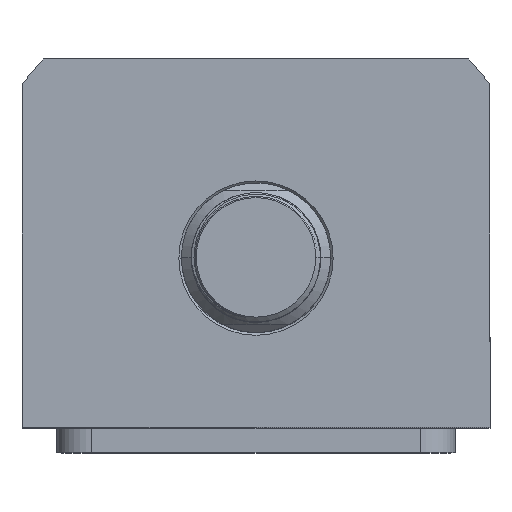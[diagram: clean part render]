
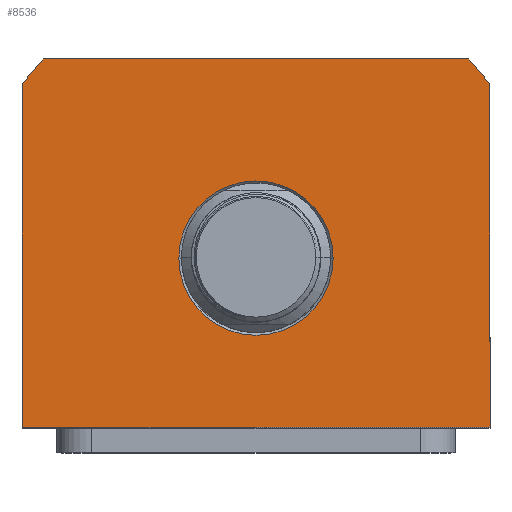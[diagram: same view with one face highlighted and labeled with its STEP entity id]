
A CAD part, top view. The second image highlights one B-rep face of the part: STEP entity #8536.
In plain terms, the highlighted planar face has unit normal (0, 0, 1).
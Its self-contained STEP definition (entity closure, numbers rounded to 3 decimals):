
#101 = ORIENTED_EDGE ( 'NONE', *, *, #7417, .T. ) ;
#322 = VERTEX_POINT ( 'NONE', #1579 ) ;
#499 = VERTEX_POINT ( 'NONE', #8096 ) ;
#573 = VERTEX_POINT ( 'NONE', #656 ) ;
#656 = CARTESIAN_POINT ( 'NONE',  ( 47., -34., 57.5 ) ) ;
#826 = VERTEX_POINT ( 'NONE', #14810 ) ;
#880 = DIRECTION ( 'NONE',  ( 0., 0., 1. ) ) ;
#1579 = CARTESIAN_POINT ( 'NONE',  ( 47., 34.832, 57.5 ) ) ;
#1951 = EDGE_CURVE ( 'NONE', #499, #8627, #17553, .T. ) ;
#2422 = DIRECTION ( 'NONE',  ( 1., 0., 0. ) ) ;
#2862 = AXIS2_PLACEMENT_3D ( 'NONE', #11971, #19496, #4285 ) ;
#3297 = AXIS2_PLACEMENT_3D ( 'NONE', #15523, #6493, #14058 ) ;
#3533 = DIRECTION ( 'NONE',  ( 0., 1., 0. ) ) ;
#3810 = EDGE_CURVE ( 'NONE', #5616, #6175, #10654, .T. ) ;
#4067 = EDGE_CURVE ( 'NONE', #6175, #5616, #11585, .T. ) ;
#4285 = DIRECTION ( 'NONE',  ( 1., 0., 0. ) ) ;
#4392 = LINE ( 'NONE', #5119, #17941 ) ;
#4484 = EDGE_CURVE ( 'NONE', #8627, #573, #5145, .T. ) ;
#4555 = LINE ( 'NONE', #7973, #12153 ) ;
#5017 = EDGE_CURVE ( 'NONE', #322, #19404, #5395, .T. ) ;
#5119 = CARTESIAN_POINT ( 'NONE',  ( -42.688, 40., 57.5 ) ) ;
#5145 = LINE ( 'NONE', #19162, #13227 ) ;
#5395 = CIRCLE ( 'NONE', #3297, 58.5 ) ;
#5616 = VERTEX_POINT ( 'NONE', #6417 ) ;
#6175 = VERTEX_POINT ( 'NONE', #13199 ) ;
#6417 = CARTESIAN_POINT ( 'NONE',  ( 15.5, 0., 57.5 ) ) ;
#6493 = DIRECTION ( 'NONE',  ( 0., 0., 1. ) ) ;
#6577 = ORIENTED_EDGE ( 'NONE', *, *, #17195, .T. ) ;
#6715 = AXIS2_PLACEMENT_3D ( 'NONE', #7487, #10694, #15073 ) ;
#6811 = CARTESIAN_POINT ( 'NONE',  ( -47., -34., 57.5 ) ) ;
#7417 = EDGE_CURVE ( 'NONE', #19404, #826, #4392, .T. ) ;
#7487 = CARTESIAN_POINT ( 'NONE',  ( 0., 0., 57.5 ) ) ;
#7766 = ORIENTED_EDGE ( 'NONE', *, *, #3810, .T. ) ;
#7811 = CIRCLE ( 'NONE', #17096, 58.5 ) ;
#7973 = CARTESIAN_POINT ( 'NONE',  ( 47., 34.832, 57.5 ) ) ;
#8096 = CARTESIAN_POINT ( 'NONE',  ( -47., 34.832, 57.5 ) ) ;
#8536 = ADVANCED_FACE ( 'NONE', ( #9343, #15996 ), #19352, .T. ) ;
#8627 = VERTEX_POINT ( 'NONE', #10390 ) ;
#9343 = FACE_BOUND ( 'NONE', #14790, .T. ) ;
#9436 = DIRECTION ( 'NONE',  ( -1., 0., 0. ) ) ;
#9466 = VECTOR ( 'NONE', #19022, 1000. ) ;
#9837 = DIRECTION ( 'NONE',  ( 0., 0., -1. ) ) ;
#9970 = CARTESIAN_POINT ( 'NONE',  ( 0., 0., 57.5 ) ) ;
#10390 = CARTESIAN_POINT ( 'NONE',  ( -47., -34., 57.5 ) ) ;
#10654 = CIRCLE ( 'NONE', #6715, 15.5 ) ;
#10694 = DIRECTION ( 'NONE',  ( 0., 0., -1. ) ) ;
#11248 = ORIENTED_EDGE ( 'NONE', *, *, #5017, .T. ) ;
#11585 = CIRCLE ( 'NONE', #15252, 15.5 ) ;
#11599 = ORIENTED_EDGE ( 'NONE', *, *, #1951, .T. ) ;
#11971 = CARTESIAN_POINT ( 'NONE',  ( 0., 0., 57.5 ) ) ;
#12047 = DIRECTION ( 'NONE',  ( 1., 0., 0. ) ) ;
#12153 = VECTOR ( 'NONE', #3533, 1000. ) ;
#12474 = ORIENTED_EDGE ( 'NONE', *, *, #4484, .T. ) ;
#13199 = CARTESIAN_POINT ( 'NONE',  ( -15.5, 0., 57.5 ) ) ;
#13208 = EDGE_CURVE ( 'NONE', #573, #322, #4555, .T. ) ;
#13227 = VECTOR ( 'NONE', #12047, 1000. ) ;
#13881 = ORIENTED_EDGE ( 'NONE', *, *, #13208, .T. ) ;
#14058 = DIRECTION ( 'NONE',  ( 1., 0., 0. ) ) ;
#14558 = CARTESIAN_POINT ( 'NONE',  ( 0., 0., 57.5 ) ) ;
#14616 = ORIENTED_EDGE ( 'NONE', *, *, #4067, .T. ) ;
#14790 = EDGE_LOOP ( 'NONE', ( #7766, #14616 ) ) ;
#14810 = CARTESIAN_POINT ( 'NONE',  ( -42.688, 40., 57.5 ) ) ;
#15073 = DIRECTION ( 'NONE',  ( 1., 0., 0. ) ) ;
#15252 = AXIS2_PLACEMENT_3D ( 'NONE', #14558, #9837, #16093 ) ;
#15523 = CARTESIAN_POINT ( 'NONE',  ( 0., 0., 57.5 ) ) ;
#15996 = FACE_OUTER_BOUND ( 'NONE', #17926, .T. ) ;
#16093 = DIRECTION ( 'NONE',  ( 1., 0., 0. ) ) ;
#17096 = AXIS2_PLACEMENT_3D ( 'NONE', #9970, #880, #2422 ) ;
#17195 = EDGE_CURVE ( 'NONE', #826, #499, #7811, .T. ) ;
#17553 = LINE ( 'NONE', #6811, #9466 ) ;
#17908 = CARTESIAN_POINT ( 'NONE',  ( 42.688, 40., 57.5 ) ) ;
#17926 = EDGE_LOOP ( 'NONE', ( #12474, #13881, #11248, #101, #6577, #11599 ) ) ;
#17941 = VECTOR ( 'NONE', #9436, 1000. ) ;
#19022 = DIRECTION ( 'NONE',  ( 0., -1., 0. ) ) ;
#19162 = CARTESIAN_POINT ( 'NONE',  ( 47., -34., 57.5 ) ) ;
#19352 = PLANE ( 'NONE',  #2862 ) ;
#19404 = VERTEX_POINT ( 'NONE', #17908 ) ;
#19496 = DIRECTION ( 'NONE',  ( 0., 0., 1. ) ) ;
